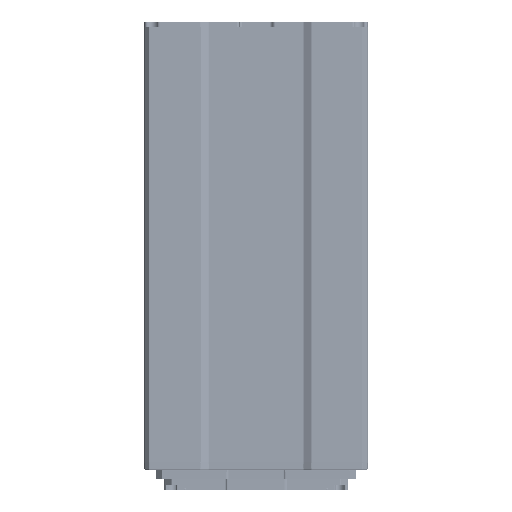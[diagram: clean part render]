
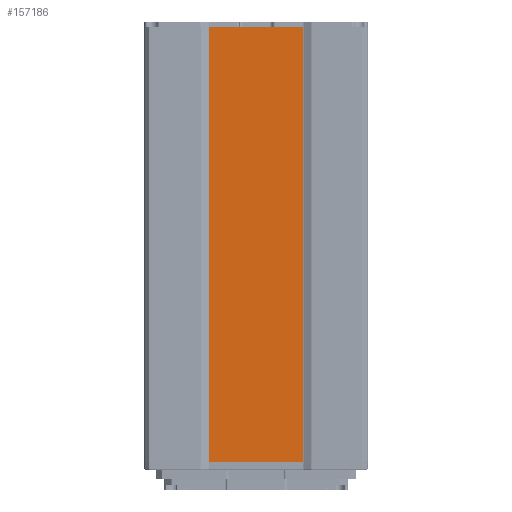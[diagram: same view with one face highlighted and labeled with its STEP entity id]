
A CAD part, left-side view. The second image highlights one B-rep face of the part: STEP entity #157186.
In plain terms, the highlighted planar face has unit normal (-1, 0, 0).
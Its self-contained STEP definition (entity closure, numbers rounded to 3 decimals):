
#3598 = VECTOR ( 'NONE', #121146, 1000. ) ;
#10948 = DIRECTION ( 'NONE',  ( 0., 0., -1. ) ) ;
#22456 = LINE ( 'NONE', #34342, #179749 ) ;
#25728 = ORIENTED_EDGE ( 'NONE', *, *, #235254, .F. ) ;
#32632 = DIRECTION ( 'NONE',  ( 0., 0., 1. ) ) ;
#34342 = CARTESIAN_POINT ( 'NONE',  ( -99.094, -3.389, 204. ) ) ;
#41401 = LINE ( 'NONE', #122881, #3598 ) ;
#75018 = CARTESIAN_POINT ( 'NONE',  ( -99.094, -2.681, 204. ) ) ;
#86940 = VERTEX_POINT ( 'NONE', #206968 ) ;
#92673 = PLANE ( 'NONE',  #138914 ) ;
#95652 = CARTESIAN_POINT ( 'NONE',  ( -99.094, -73.973, 534. ) ) ;
#111767 = LINE ( 'NONE', #151509, #237362 ) ;
#121146 = DIRECTION ( 'NONE',  ( 0., 1., 0. ) ) ;
#122881 = CARTESIAN_POINT ( 'NONE',  ( -99.094, -2.681, 534. ) ) ;
#127100 = VERTEX_POINT ( 'NONE', #214753 ) ;
#131965 = EDGE_CURVE ( 'NONE', #127100, #236929, #22456, .T. ) ;
#134021 = CARTESIAN_POINT ( 'NONE',  ( -99.094, -3.389, 534. ) ) ;
#134669 = VERTEX_POINT ( 'NONE', #95652 ) ;
#138914 = AXIS2_PLACEMENT_3D ( 'NONE', #75018, #255086, #215559 ) ;
#148297 = ORIENTED_EDGE ( 'NONE', *, *, #214074, .F. ) ;
#151509 = CARTESIAN_POINT ( 'NONE',  ( -99.094, -73.973, 204. ) ) ;
#157186 = ADVANCED_FACE ( 'NONE', ( #179519 ), #92673, .F. ) ;
#159915 = VECTOR ( 'NONE', #259901, 1000. ) ;
#169116 = ORIENTED_EDGE ( 'NONE', *, *, #212465, .T. ) ;
#179519 = FACE_OUTER_BOUND ( 'NONE', #249929, .T. ) ;
#179749 = VECTOR ( 'NONE', #32632, 1000. ) ;
#189550 = ORIENTED_EDGE ( 'NONE', *, *, #131965, .F. ) ;
#206962 = LINE ( 'NONE', #218642, #159915 ) ;
#206968 = CARTESIAN_POINT ( 'NONE',  ( -99.094, -73.973, 204. ) ) ;
#212465 = EDGE_CURVE ( 'NONE', #134669, #236929, #41401, .T. ) ;
#214074 = EDGE_CURVE ( 'NONE', #86940, #127100, #206962, .T. ) ;
#214753 = CARTESIAN_POINT ( 'NONE',  ( -99.094, -3.389, 204. ) ) ;
#215559 = DIRECTION ( 'NONE',  ( 0., 0., -1. ) ) ;
#218642 = CARTESIAN_POINT ( 'NONE',  ( -99.094, 45.019, 204. ) ) ;
#235254 = EDGE_CURVE ( 'NONE', #134669, #86940, #111767, .T. ) ;
#236929 = VERTEX_POINT ( 'NONE', #134021 ) ;
#237362 = VECTOR ( 'NONE', #10948, 1000. ) ;
#249929 = EDGE_LOOP ( 'NONE', ( #169116, #189550, #148297, #25728 ) ) ;
#255086 = DIRECTION ( 'NONE',  ( 1., 0., 0. ) ) ;
#259901 = DIRECTION ( 'NONE',  ( 0., 1., 0. ) ) ;
